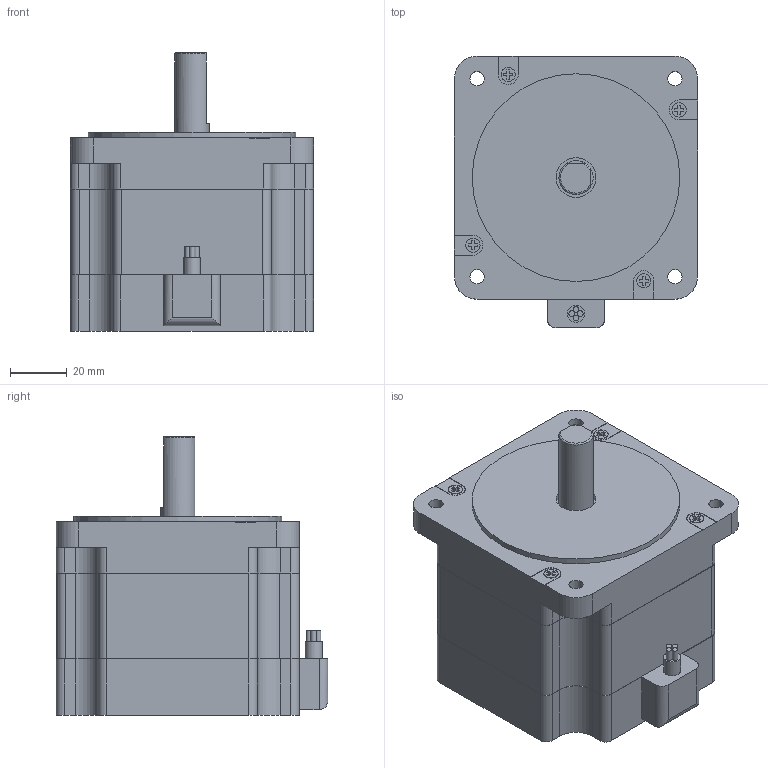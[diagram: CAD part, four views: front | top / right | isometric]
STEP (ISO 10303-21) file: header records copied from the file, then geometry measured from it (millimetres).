
FILE_DESCRIPTION(/* description */ (''),/* implementation_level */ '2;1');
FILE_NAME(/* name */ 'SST86D1605.stp',/* time_stamp */ '2018-08-16T09:42:06+08:00',/* author */ (''),/* organization */ (''),/* preprocessor_version */ 'ST-DEVELOPER v11',/* originating_system */ 'SIEMENS UGS NX 6.0',/* authorisation */ '');
FILE_SCHEMA (('CONFIG_CONTROL_DESIGN'));
Length unit declared in the file: millimetre
Products named in the file (1): SST86D1605
Bounding box: 85.5 x 95.5 x 98.1 mm (x, y, z)
Volume: 461002.9 mm3; surface area: 39606.5 mm2
Topology: 1 solids, 1 shells, 197 faces, 530 edges, 355 vertices
Faces by surface type: plane 130, cylinder 65, torus 2
Full cylindrical faces by diameter (mm): 2 x4, 5 x8, 6 x1, 12 x2, 14 x2, 73.025 x1
Entity records: 6175 total; most frequent: CARTESIAN_POINT 1115, DIRECTION 1029, ORIENTED_EDGE 1008, EDGE_CURVE 504, LINE 367, VECTOR 367, VERTEX_POINT 347, AXIS2_PLACEMENT_3D 331
